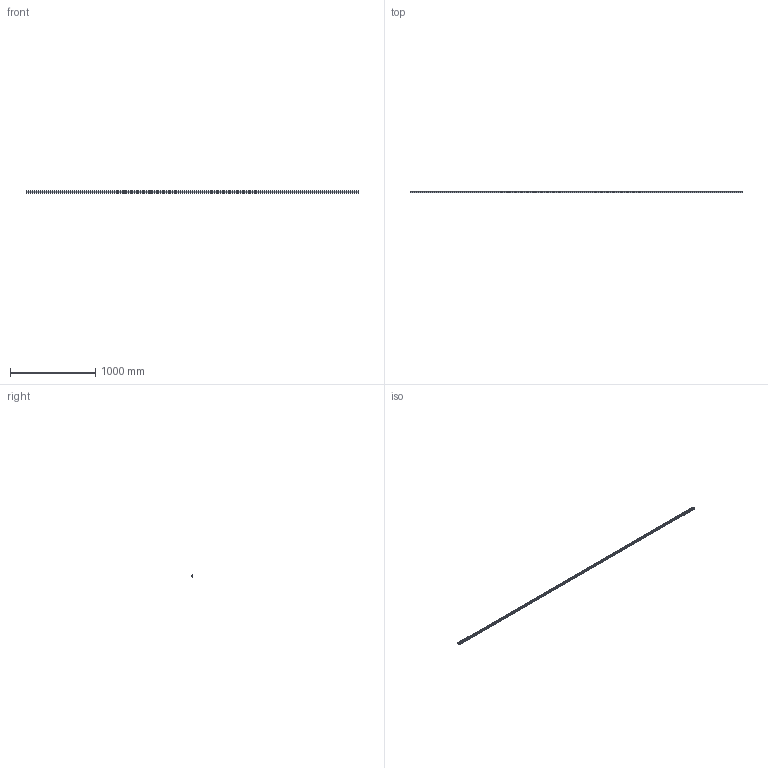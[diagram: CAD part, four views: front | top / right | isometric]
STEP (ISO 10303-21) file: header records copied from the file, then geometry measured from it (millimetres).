
FILE_DESCRIPTION (( 'STEP AP203' ), '1' );
FILE_NAME ('L1018.25R-3900.step', '2023-08-06T10:50:37', ( '' ), ( '' ), 'SwSTEP 2.0', 'SolidWorks 2019', '' );
FILE_SCHEMA (( 'CONFIG_CONTROL_DESIGN' ));
Length unit declared in the file: millimetre
Products named in the file (1): L1018.25R-3900
Bounding box: 3900 x 21.8 x 25 mm (x, y, z)
Volume: 1621963.6 mm3; surface area: 388115.2 mm2
Topology: 1 solids, 1 shells, 614 faces, 1381 edges, 769 vertices
Faces by surface type: cylinder 263, cone 260, plane 91
Entity records: 16208 total; most frequent: DIRECTION 3137, CARTESIAN_POINT 2635, ORIENTED_EDGE 2502, AXIS2_PLACEMENT_3D 1271, EDGE_CURVE 1251, VERTEX_POINT 769, EDGE_LOOP 744, CIRCLE 656
